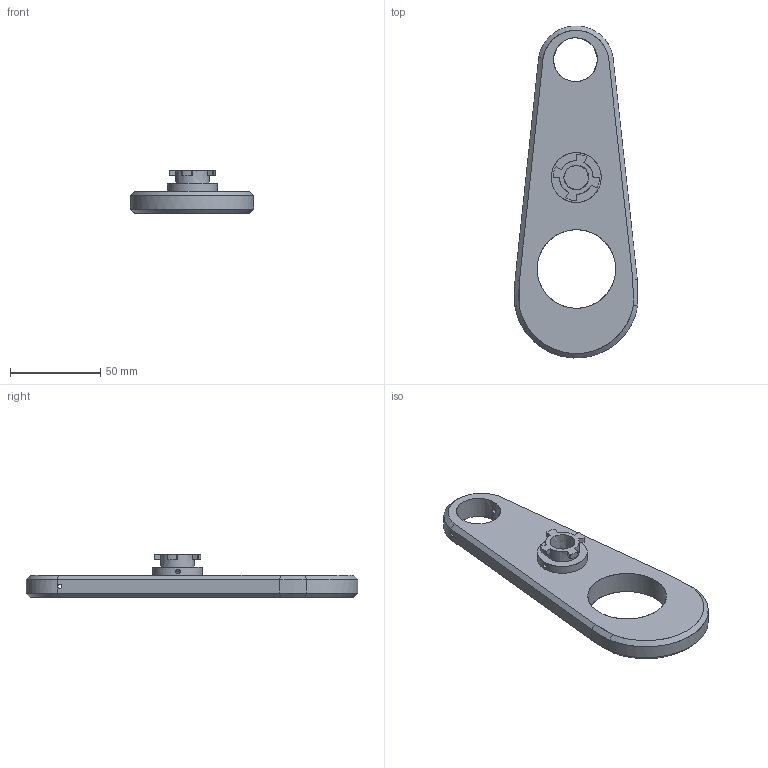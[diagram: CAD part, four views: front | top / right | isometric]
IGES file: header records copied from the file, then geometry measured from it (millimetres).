
Global section: file name: E:\M1337\M1337 Remodel\English\Crank\IGES Files\Crank Arm.igs; native system: NX V2007; preprocessor: SIEMENS PLM Software NX 2027; date: 20260827.192528; units: inch
Bounding box: 68.25 x 183.62 x 23.73 mm (x, y, z)
Surface area: 24201.3 mm2 (no closed solid volume)
Topology: 0 solids, 0 shells, 57 faces, 530 edges, 578 vertices
Faces by surface type: bspline 57
